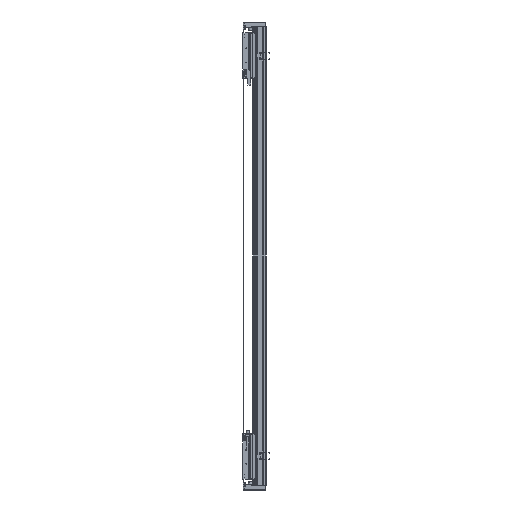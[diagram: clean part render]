
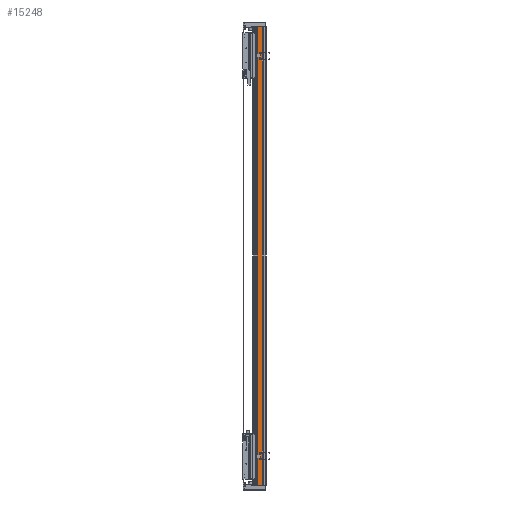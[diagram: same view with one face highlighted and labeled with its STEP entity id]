
A CAD part, left-side view. The second image highlights one B-rep face of the part: STEP entity #15248.
In plain terms, the highlighted planar face has unit normal (-1, 0, 0).
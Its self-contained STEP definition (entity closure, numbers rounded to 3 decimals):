
#264 = AXIS2_PLACEMENT_3D ( 'NONE', #53924, #100251, #99080 ) ;
#3544 = DIRECTION ( 'NONE',  ( 0., -1., 0. ) ) ;
#4162 = EDGE_LOOP ( 'NONE', ( #74237, #117440, #108446, #23581 ) ) ;
#4521 = CARTESIAN_POINT ( 'NONE',  ( -82.5, 36.95, 960. ) ) ;
#4962 = LINE ( 'NONE', #88021, #105138 ) ;
#6501 = EDGE_CURVE ( 'NONE', #81655, #86748, #4962, .T. ) ;
#8418 = VECTOR ( 'NONE', #3544, 1000. ) ;
#10907 = CARTESIAN_POINT ( 'NONE',  ( -82.5, 36.95, 960. ) ) ;
#15248 = ADVANCED_FACE ( 'NONE', ( #106956 ), #55113, .F. ) ;
#17092 = EDGE_CURVE ( 'NONE', #68533, #81655, #103269, .T. ) ;
#18074 = CARTESIAN_POINT ( 'NONE',  ( -82.5, 36.95, -960. ) ) ;
#19173 = DIRECTION ( 'NONE',  ( 0., 0., -1. ) ) ;
#23581 = ORIENTED_EDGE ( 'NONE', *, *, #17092, .T. ) ;
#32902 = CARTESIAN_POINT ( 'NONE',  ( -82.5, 14.45, 960. ) ) ;
#40440 = VERTEX_POINT ( 'NONE', #32902 ) ;
#41284 = DIRECTION ( 'NONE',  ( 0., 0., -1. ) ) ;
#43391 = VECTOR ( 'NONE', #41284, 1000. ) ;
#53924 = CARTESIAN_POINT ( 'NONE',  ( -82.5, 36.95, 960. ) ) ;
#55113 = PLANE ( 'NONE',  #264 ) ;
#67358 = LINE ( 'NONE', #87790, #8418 ) ;
#68533 = VERTEX_POINT ( 'NONE', #10907 ) ;
#72115 = CARTESIAN_POINT ( 'NONE',  ( -82.5, 14.45, -960. ) ) ;
#74237 = ORIENTED_EDGE ( 'NONE', *, *, #6501, .T. ) ;
#76658 = DIRECTION ( 'NONE',  ( 0., -1., 0. ) ) ;
#81655 = VERTEX_POINT ( 'NONE', #18074 ) ;
#81835 = LINE ( 'NONE', #101674, #85952 ) ;
#85952 = VECTOR ( 'NONE', #19173, 1000. ) ;
#86588 = EDGE_CURVE ( 'NONE', #68533, #40440, #67358, .T. ) ;
#86748 = VERTEX_POINT ( 'NONE', #72115 ) ;
#87790 = CARTESIAN_POINT ( 'NONE',  ( -82.5, 36.95, 960. ) ) ;
#88021 = CARTESIAN_POINT ( 'NONE',  ( -82.5, 36.95, -960. ) ) ;
#90141 = EDGE_CURVE ( 'NONE', #40440, #86748, #81835, .T. ) ;
#99080 = DIRECTION ( 'NONE',  ( 0., 1., 0. ) ) ;
#100251 = DIRECTION ( 'NONE',  ( 1., 0., 0. ) ) ;
#101674 = CARTESIAN_POINT ( 'NONE',  ( -82.5, 14.45, 960. ) ) ;
#103269 = LINE ( 'NONE', #4521, #43391 ) ;
#105138 = VECTOR ( 'NONE', #76658, 1000. ) ;
#106956 = FACE_OUTER_BOUND ( 'NONE', #4162, .T. ) ;
#108446 = ORIENTED_EDGE ( 'NONE', *, *, #86588, .F. ) ;
#117440 = ORIENTED_EDGE ( 'NONE', *, *, #90141, .F. ) ;
